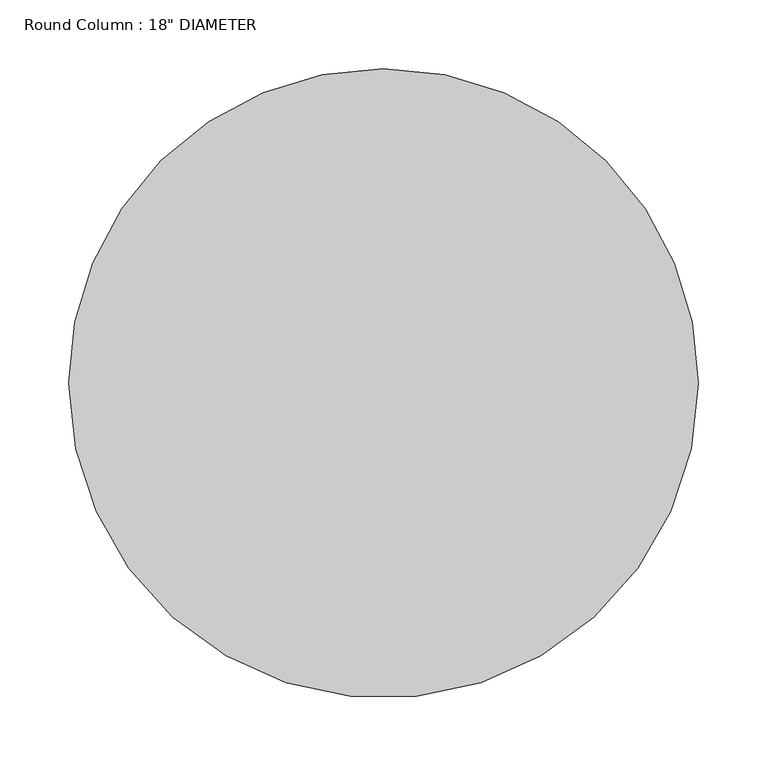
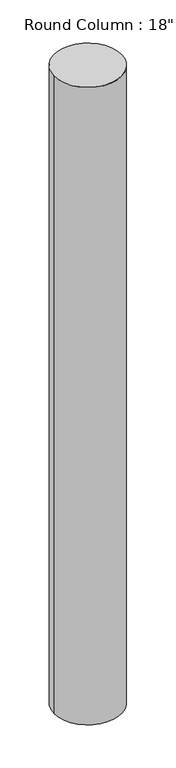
"""IFC4 building model written with IfcOpenShell, lengths in millimetres: column geometry."""

from ifc_helpers import new_model, si_unit, point, frame, origin, origin_2d, place, context, project, spatial, circle_curve, trimmed, segment, composite_curve, outline, extrude, source, transform, mapped, element, save


def column_1d684364(model_context):
    return source(origin(), model_context, "Body", "SweptSolid", [
        extrude(outline(composite_curve([segment(trimmed(circle_curve(origin_2d(), 228.6), [point((228.6, 0.0))], [point((-228.6, 0.0))], False, "CARTESIAN"), True, "CONTINUOUS"), segment(trimmed(circle_curve(origin_2d(), 228.6), [point((-228.6, 0.0))], [point((0.0, 228.6))], False, "CARTESIAN"), True, "CONTINUOUS"), segment(trimmed(circle_curve(origin_2d(), 228.6), [point((0.0, 228.6))], [point((228.6, 0.0))], False, "CARTESIAN"), True, "CONTINUOUS")], self_intersect=False)), frame((0.0, 0.0, 290080.7), z_axis=(0.0, 0.0, 1.0), x_axis=(1.0, 0.0, 0.0)), (0.0, 0.0, 1.0), 4597.4),
    ])


if __name__ == "__main__":
    model = new_model("IFC4")
    model_context = context("Model", 3, world=origin())
    ifc_project = project(units=[si_unit("LENGTHUNIT", "METRE", prefix="MILLI")], contexts=[model_context])
    site = spatial("IfcSite", under=ifc_project)
    building = spatial("IfcBuilding", under=site)
    placement = place(None, origin())
    column_shape = column_1d684364(model_context)
    element("IfcColumn", 1, ObjectType="Round Column : 18\" DIAMETER", at=placement, inside=building, context=model_context, shape_type="MappedRepresentation", body=[
        mapped(column_shape, transform((0.0, 0.0, 0.0), x_axis=(1.0, 0.0, 0.0), y_axis=(0.0, 1.0, 0.0), z_axis=(0.0, 0.0, 1.0))),
    ])
    save(model, "model.ifc")
